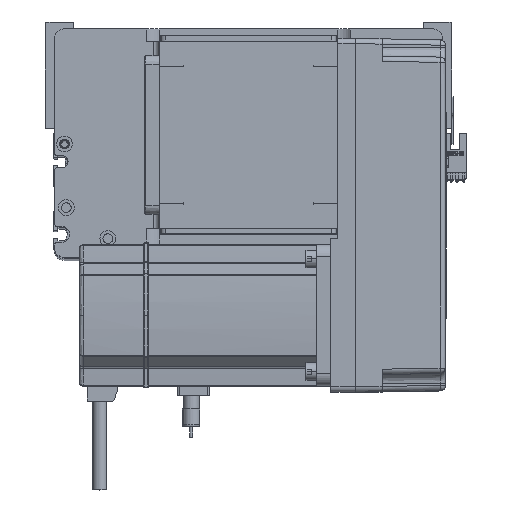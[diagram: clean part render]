
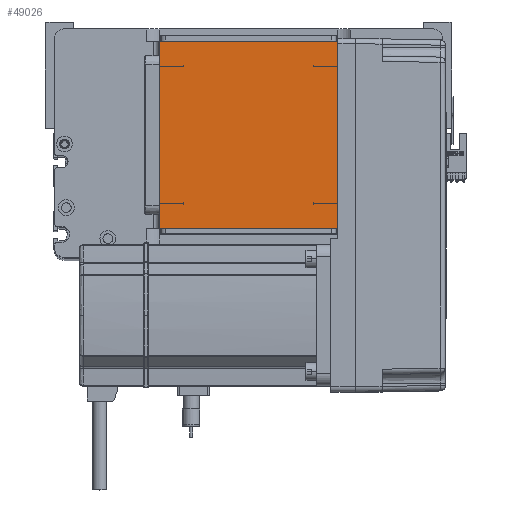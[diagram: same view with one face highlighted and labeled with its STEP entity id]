
A CAD part, top view. The second image highlights one B-rep face of the part: STEP entity #49026.
In plain terms, the highlighted planar face has unit normal (0, 0, 1).
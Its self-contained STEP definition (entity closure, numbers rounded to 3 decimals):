
#2457 = PLANE ( 'NONE',  #5287 ) ;
#4746 = DIRECTION ( 'NONE',  ( 1., 0., 0. ) ) ;
#5263 = DIRECTION ( 'NONE',  ( 0., -1., 0. ) ) ;
#5287 = AXIS2_PLACEMENT_3D ( 'NONE', #29342, #13949, #48798 ) ;
#6653 = ORIENTED_EDGE ( 'NONE', *, *, #23901, .T. ) ;
#8172 = VERTEX_POINT ( 'NONE', #19218 ) ;
#9182 = EDGE_CURVE ( 'NONE', #49721, #30740, #14685, .T. ) ;
#11785 = ORIENTED_EDGE ( 'NONE', *, *, #9182, .T. ) ;
#13949 = DIRECTION ( 'NONE',  ( 0., 0., 1. ) ) ;
#14685 = LINE ( 'NONE', #15410, #34077 ) ;
#15410 = CARTESIAN_POINT ( 'NONE',  ( 50.5, 122., 115. ) ) ;
#17244 = VECTOR ( 'NONE', #32558, 1000. ) ;
#19218 = CARTESIAN_POINT ( 'NONE',  ( -50.5, 16., 115. ) ) ;
#19637 = VERTEX_POINT ( 'NONE', #40971 ) ;
#19838 = CARTESIAN_POINT ( 'NONE',  ( -50.5, 16., 115. ) ) ;
#19839 = FACE_OUTER_BOUND ( 'NONE', #37489, .T. ) ;
#20619 = EDGE_CURVE ( 'NONE', #19637, #8172, #32412, .T. ) ;
#22909 = CARTESIAN_POINT ( 'NONE',  ( 50.5, 16., 115. ) ) ;
#23449 = LINE ( 'NONE', #19838, #33710 ) ;
#23901 = EDGE_CURVE ( 'NONE', #8172, #49721, #23449, .T. ) ;
#24472 = CARTESIAN_POINT ( 'NONE',  ( 50.5, 122., 115. ) ) ;
#25187 = VECTOR ( 'NONE', #5263, 1000. ) ;
#27536 = LINE ( 'NONE', #28659, #17244 ) ;
#28659 = CARTESIAN_POINT ( 'NONE',  ( -50.5, 122., 115. ) ) ;
#29342 = CARTESIAN_POINT ( 'NONE',  ( 0., 0., 115. ) ) ;
#30740 = VERTEX_POINT ( 'NONE', #24472 ) ;
#31329 = DIRECTION ( 'NONE',  ( 0., 1., 0. ) ) ;
#32412 = LINE ( 'NONE', #36386, #25187 ) ;
#32558 = DIRECTION ( 'NONE',  ( -1., 0., 0. ) ) ;
#33710 = VECTOR ( 'NONE', #4746, 1000. ) ;
#34077 = VECTOR ( 'NONE', #31329, 1000. ) ;
#36386 = CARTESIAN_POINT ( 'NONE',  ( -50.5, 122., 115. ) ) ;
#36871 = EDGE_CURVE ( 'NONE', #30740, #19637, #27536, .T. ) ;
#37489 = EDGE_LOOP ( 'NONE', ( #46754, #6653, #11785, #42680 ) ) ;
#40971 = CARTESIAN_POINT ( 'NONE',  ( -50.5, 122., 115. ) ) ;
#42680 = ORIENTED_EDGE ( 'NONE', *, *, #36871, .T. ) ;
#46754 = ORIENTED_EDGE ( 'NONE', *, *, #20619, .T. ) ;
#48798 = DIRECTION ( 'NONE',  ( 1., 0., 0. ) ) ;
#49026 = ADVANCED_FACE ( 'NONE', ( #19839 ), #2457, .T. ) ;
#49721 = VERTEX_POINT ( 'NONE', #22909 ) ;
